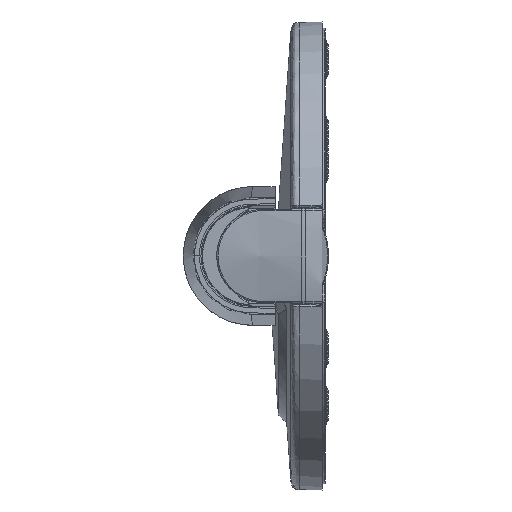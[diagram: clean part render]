
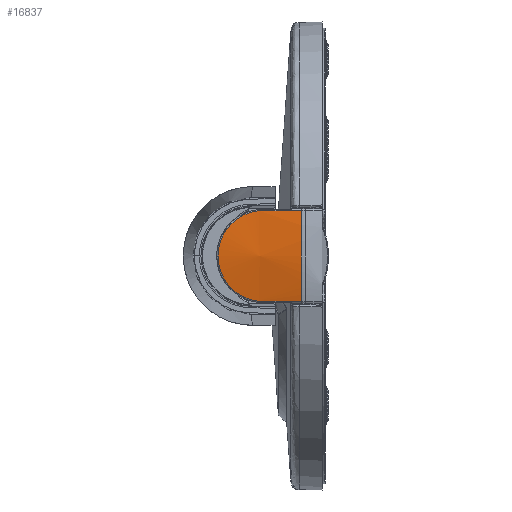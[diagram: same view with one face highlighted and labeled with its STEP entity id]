
A CAD part, left-side view. The second image highlights one B-rep face of the part: STEP entity #16837.
In plain terms, the highlighted conical face has half-angle 8.041 degrees and reference radius 73.007 mm.
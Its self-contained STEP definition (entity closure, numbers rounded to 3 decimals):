
#2314=CARTESIAN_POINT('',(-71.502,5.254,
-14.521));
#2315=CARTESIAN_POINT('',(-71.488,5.367,
-14.51));
#2316=CARTESIAN_POINT('',(-71.456,5.627,
-14.481));
#2317=CARTESIAN_POINT('',(-71.407,6.051,
-14.422));
#2318=CARTESIAN_POINT('',(-71.353,6.546,
-14.336));
#2319=CARTESIAN_POINT('',(-71.297,7.099,
-14.22));
#2320=CARTESIAN_POINT('',(-71.239,7.713,
-14.063));
#2321=CARTESIAN_POINT('',(-71.183,8.378,
-13.86));
#2322=CARTESIAN_POINT('',(-71.132,9.067,
-13.612));
#2323=CARTESIAN_POINT('',(-71.088,9.752,
-13.324));
#2324=CARTESIAN_POINT('',(-71.052,10.419,
-13.002));
#2325=CARTESIAN_POINT('',(-71.023,11.068,
-12.647));
#2326=CARTESIAN_POINT('',(-71.001,11.699,
-12.259));
#2327=CARTESIAN_POINT('',(-70.985,12.308,
-11.841));
#2328=CARTESIAN_POINT('',(-70.974,12.895,
-11.391));
#2329=CARTESIAN_POINT('',(-70.969,13.475,
-10.898));
#2330=CARTESIAN_POINT('',(-70.968,14.066,
-10.338));
#2331=CARTESIAN_POINT('',(-70.973,14.679,
-9.685));
#2332=CARTESIAN_POINT('',(-70.984,15.314,
-8.918));
#2333=CARTESIAN_POINT('',(-71.001,15.952,
-8.02));
#2334=CARTESIAN_POINT('',(-71.022,16.558,
-7.007));
#2335=CARTESIAN_POINT('',(-71.045,17.078,
-5.944));
#2336=CARTESIAN_POINT('',(-71.066,17.483,
-4.917));
#2337=CARTESIAN_POINT('',(-71.083,17.778,
-3.98));
#2338=CARTESIAN_POINT('',(-71.095,17.986,
-3.14));
#2339=CARTESIAN_POINT('',(-71.104,18.129,
-2.386));
#2340=CARTESIAN_POINT('',(-71.11,18.223,
-1.71));
#2341=CARTESIAN_POINT('',(-71.113,18.28,
-1.103));
#2342=CARTESIAN_POINT('',(-71.115,18.31,
-0.554));
#2343=CARTESIAN_POINT('',(-71.116,18.318,
-0.193));
#2344=CARTESIAN_POINT('',(-71.116,18.318,
-0.013));
#2345=CARTESIAN_POINT('',(-71.116,18.318,
0.));
#2347=CARTESIAN_POINT('',(-71.116,18.318,
0.));
#2348=CARTESIAN_POINT('',(-71.116,18.318,
0.013));
#2349=CARTESIAN_POINT('',(-71.116,18.318,
0.193));
#2350=CARTESIAN_POINT('',(-71.115,18.31,
0.554));
#2351=CARTESIAN_POINT('',(-71.113,18.28,1.103));
#2352=CARTESIAN_POINT('',(-71.11,18.223,1.71));
#2353=CARTESIAN_POINT('',(-71.104,18.129,2.386));
#2354=CARTESIAN_POINT('',(-71.095,17.986,3.14));
#2355=CARTESIAN_POINT('',(-71.083,17.778,3.98));
#2356=CARTESIAN_POINT('',(-71.066,17.483,4.917));
#2357=CARTESIAN_POINT('',(-71.045,17.078,5.944));
#2358=CARTESIAN_POINT('',(-71.022,16.558,7.007));
#2359=CARTESIAN_POINT('',(-71.001,15.952,8.02));
#2360=CARTESIAN_POINT('',(-70.984,15.314,8.918));
#2361=CARTESIAN_POINT('',(-70.973,14.679,9.685));
#2362=CARTESIAN_POINT('',(-70.968,14.066,10.338));
#2363=CARTESIAN_POINT('',(-70.969,13.475,10.898));
#2364=CARTESIAN_POINT('',(-70.974,12.895,11.391));
#2365=CARTESIAN_POINT('',(-70.985,12.308,11.841));
#2366=CARTESIAN_POINT('',(-71.001,11.699,12.259));
#2367=CARTESIAN_POINT('',(-71.023,11.068,12.647));
#2368=CARTESIAN_POINT('',(-71.052,10.419,13.002));
#2369=CARTESIAN_POINT('',(-71.088,9.752,13.324));
#2370=CARTESIAN_POINT('',(-71.132,9.067,13.612));
#2371=CARTESIAN_POINT('',(-71.183,8.378,13.86));
#2372=CARTESIAN_POINT('',(-71.239,7.713,14.063));
#2373=CARTESIAN_POINT('',(-71.297,7.099,14.22));
#2374=CARTESIAN_POINT('',(-71.353,6.546,14.336));
#2375=CARTESIAN_POINT('',(-71.407,6.051,14.422));
#2376=CARTESIAN_POINT('',(-71.456,5.627,14.481));
#2377=CARTESIAN_POINT('',(-71.488,5.367,14.51));
#2378=CARTESIAN_POINT('',(-71.502,5.254,14.521));
#2380=CARTESIAN_POINT('',(-71.502,5.254,14.521));
#2381=CARTESIAN_POINT('',(-71.716,3.731,14.547));
#2382=CARTESIAN_POINT('',(-72.145,0.685,
14.599));
#2383=CARTESIAN_POINT('',(-72.787,-3.885,
14.678));
#2384=CARTESIAN_POINT('',(-73.216,-6.931,
14.73));
#2385=CARTESIAN_POINT('',(-73.43,-8.454,
14.757));
#2387=CARTESIAN_POINT('',(-73.43,-8.454,
-14.757));
#2388=CARTESIAN_POINT('',(-73.216,-6.931,
-14.73));
#2389=CARTESIAN_POINT('',(-72.787,-3.885,
-14.678));
#2390=CARTESIAN_POINT('',(-72.145,0.685,
-14.599));
#2391=CARTESIAN_POINT('',(-71.716,3.731,
-14.547));
#2392=CARTESIAN_POINT('',(-71.502,5.254,
-14.521));
#2394=CARTESIAN_POINT('',(0.,-8.454,0.));
#2395=DIRECTION('',(0.,1.,0.));
#2396=DIRECTION('',(-0.98,0.,-0.197));
#2397=AXIS2_PLACEMENT_3D('',#2394,#2395,#2396);
#2399=CARTESIAN_POINT('',(0.,-8.454,0.));
#2400=DIRECTION('',(0.,1.,0.));
#2401=DIRECTION('',(-0.995,0.,-0.105));
#2402=AXIS2_PLACEMENT_3D('',#2399,#2400,#2401);
#2404=CARTESIAN_POINT('',(0.,-8.454,0.));
#2405=DIRECTION('',(0.,1.,0.));
#2406=DIRECTION('',(-1.,0.,0.));
#2407=AXIS2_PLACEMENT_3D('',#2404,#2405,#2406);
#12798=CARTESIAN_POINT('',(-73.43,-8.454,
14.757));
#12799=VERTEX_POINT('',#12798);
#12800=VERTEX_POINT('',#2380);
#12806=VERTEX_POINT('',#2347);
#12815=VERTEX_POINT('',#2314);
#12818=CARTESIAN_POINT('',(-74.898,-8.454,0.));
#12819=VERTEX_POINT('',#12818);
#12820=CARTESIAN_POINT('',(-74.487,-8.454,
-7.832));
#12821=VERTEX_POINT('',#12820);
#12822=CARTESIAN_POINT('',(-73.43,-8.454,
-14.757));
#12823=VERTEX_POINT('',#12822);
#16819=CARTESIAN_POINT('',(0.,4.932,0.));
#16820=DIRECTION('',(0.,-1.,0.));
#16821=DIRECTION('',(-1.,0.,0.));
#16822=AXIS2_PLACEMENT_3D('',#16819,#16820,#16821);
#16823=CONICAL_SURFACE('',#16822,73.007,8.041);
#16824=ORIENTED_EDGE('',*,*,#16808,.T.);
#16825=ORIENTED_EDGE('',*,*,#16642,.T.);
#16826=ORIENTED_EDGE('',*,*,#16467,.T.);
#16828=ORIENTED_EDGE('',*,*,#16827,.F.);
#16830=ORIENTED_EDGE('',*,*,#16829,.F.);
#16832=ORIENTED_EDGE('',*,*,#16831,.F.);
#16834=ORIENTED_EDGE('',*,*,#16833,.T.);
#16835=EDGE_LOOP('',(#16824,#16825,#16826,#16828,#16830,#16832,#16834));
#16836=FACE_OUTER_BOUND('',#16835,.F.);
#16837=ADVANCED_FACE('',(#16836),#16823,.T.);
#2346=B_SPLINE_CURVE_WITH_KNOTS('',3,(#2314,#2315,#2316,#2317,#2318,#2319,#2320,
#2321,#2322,#2323,#2324,#2325,#2326,#2327,#2328,#2329,#2330,#2331,#2332,#2333,
#2334,#2335,#2336,#2337,#2338,#2339,#2340,#2341,#2342,#2343,#2344,#2345),
.UNSPECIFIED.,.F.,.F.,(4,1,1,1,1,1,1,1,1,1,1,1,1,1,1,1,1,1,1,1,1,1,1,1,1,1,1,1,
1,4),(0.,0.016,0.037,0.06,
0.087,0.117,0.15,0.185,
0.22,0.254,0.289,0.323,
0.358,0.392,0.427,0.464,
0.506,0.552,0.604,0.66,
0.717,0.769,0.814,0.854,
0.89,0.921,0.95,0.975,
0.998,1.),.UNSPECIFIED.);
#2379=B_SPLINE_CURVE_WITH_KNOTS('',3,(#2347,#2348,#2349,#2350,#2351,#2352,#2353,
#2354,#2355,#2356,#2357,#2358,#2359,#2360,#2361,#2362,#2363,#2364,#2365,#2366,
#2367,#2368,#2369,#2370,#2371,#2372,#2373,#2374,#2375,#2376,#2377,#2378),
.UNSPECIFIED.,.F.,.F.,(4,1,1,1,1,1,1,1,1,1,1,1,1,1,1,1,1,1,1,1,1,1,1,1,1,1,1,1,
1,4),(0.,0.002,0.025,0.05,
0.079,0.11,0.146,0.186,
0.231,0.283,0.34,0.396,
0.448,0.494,0.536,0.573,
0.608,0.642,0.677,0.711,
0.746,0.78,0.815,0.85,
0.883,0.913,0.94,0.963,
0.984,1.),.UNSPECIFIED.);
#2386=B_SPLINE_CURVE_WITH_KNOTS('',3,(#2380,#2381,#2382,#2383,#2384,#2385),
.UNSPECIFIED.,.F.,.F.,(4,1,1,4),(0.,0.333,0.667,1.),
.UNSPECIFIED.);
#2393=B_SPLINE_CURVE_WITH_KNOTS('',3,(#2387,#2388,#2389,#2390,#2391,#2392),
.UNSPECIFIED.,.F.,.F.,(4,1,1,4),(0.,0.333,0.667,1.),
.UNSPECIFIED.);
#2398=CIRCLE('',#2397,74.898);
#2403=CIRCLE('',#2402,74.898);
#2408=CIRCLE('',#2407,74.898);
#16467=EDGE_CURVE('',#12800,#12799,#2386,.T.);
#16642=EDGE_CURVE('',#12806,#12800,#2379,.T.);
#16808=EDGE_CURVE('',#12815,#12806,#2346,.T.);
#16827=EDGE_CURVE('',#12819,#12799,#2408,.T.);
#16829=EDGE_CURVE('',#12821,#12819,#2403,.T.);
#16831=EDGE_CURVE('',#12823,#12821,#2398,.T.);
#16833=EDGE_CURVE('',#12823,#12815,#2393,.T.);
